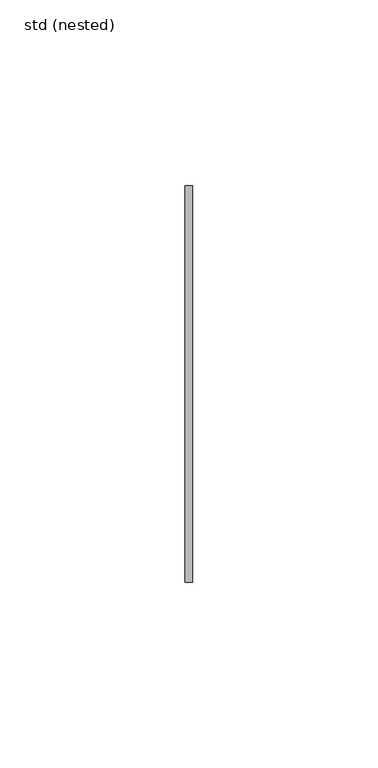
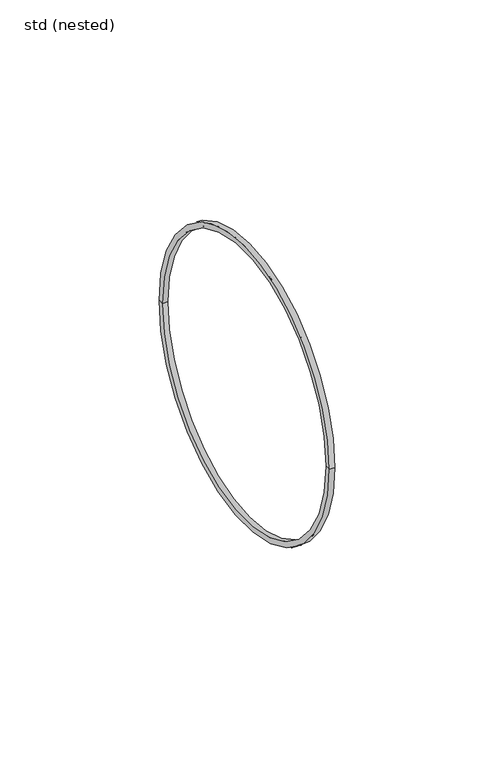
"""IFC4 building model written with IfcOpenShell, lengths in millimetres: pipe fitting geometry, ZZZ_do not use_PIF_ST_UN_GM-X seal non transitional_ACO : std (nested)."""

from ifc_helpers import new_model, si_unit, frame, origin, place, context, project, spatial, polyline, circle_curve, source, transform, mapped, element, save
from ifc_brep_helpers import plane_surface, cylinder_surface, revolved_surface, advanced_brep


def std_nested_473bf3f7(model_context):
    return source(origin(), model_context, "Body", "AdvancedBrep", [
        advanced_brep(
        [(0.0, -53.5, 0.0), (0.0, 53.5, 0.0), (2.0, 53.5, 0.0), (2.0, -53.5, 0.0), (0.0, -51.5, 0.0), (0.0, 51.5, 0.0), (2.0, -51.5, 0.0), (2.0, 51.5, 0.0)],
        [
            (0, 1, circle_curve(frame((0.0, 0.0, 0.0), z_axis=(1.0, 0.0, 0.0), x_axis=(0.0, 1.0, 0.0)), 53.5)),
            (1, 2),
            (2, 3, circle_curve(frame((2.0, 0.0, 0.0), z_axis=(-1.0, 0.0, 0.0), x_axis=(0.0, 1.0, 0.0)), 53.5)),
            (3, 0),
            (1, 0, circle_curve(frame((0.0, 0.0, 0.0), z_axis=(1.0, 0.0, 0.0), x_axis=(0.0, 1.0, 0.0)), 53.5)),
            (3, 2, circle_curve(frame((2.0, 0.0, 0.0), z_axis=(-1.0, 0.0, 0.0), x_axis=(0.0, 1.0, 0.0)), 53.5)),
            (4, 5, circle_curve(frame((0.0, 0.0, 0.0), z_axis=(1.0, 0.0, 0.0), x_axis=(0.0, 1.0, 0.0)), 51.5)),
            (5, 1),
            (0, 4),
            (5, 4, circle_curve(frame((0.0, 0.0, 0.0), z_axis=(1.0, 0.0, 0.0), x_axis=(0.0, 1.0, 0.0)), 51.5)),
            (6, 7, circle_curve(frame((2.0, 0.0, 0.0), z_axis=(1.0, 0.0, 0.0), x_axis=(0.0, 1.0, 0.0)), 51.5)),
            (7, 5),
            (4, 6),
            (7, 6, circle_curve(frame((2.0, 0.0, 0.0), z_axis=(1.0, 0.0, 0.0), x_axis=(0.0, 1.0, 0.0)), 51.5)),
            (2, 7),
            (6, 3),
        ],
        [
            cylinder_surface(frame((-0.8180655, 0.0, 0.0), z_axis=(-1.0, 0.0, 0.0), x_axis=(0.0, 1.0, 0.0)), 53.5),
            plane_surface(frame((0.0, 0.0, 0.0), z_axis=(-1.0, 0.0, 0.0), x_axis=(0.0, 1.0, 0.0))),
            revolved_surface(polyline([(0.0, 51.5, 0.0), (2.0, 51.5, 0.0)]), (-0.8180655, 0.0, 0.0), (-1.0, 0.0, 0.0)),
            plane_surface(frame((2.0, 0.0, 0.0), z_axis=(1.0, 0.0, 0.0), x_axis=(0.0, 1.0, 0.0))),
        ],
        [
            (0, [[1, 2, 3, 4]]),
            (0, [[5, -4, 6, -2]]),
            (1, [[7, 8, -1, 9]]),
            (1, [[10, -9, -5, -8]]),
            (2, [[11, 12, -7, 13]]),
            (2, [[14, -13, -10, -12]]),
            (3, [[-3, 15, -11, 16]]),
            (3, [[-6, -16, -14, -15]]),
        ],
    ),
    ])


if __name__ == "__main__":
    model = new_model("IFC4")
    model_context = context("Model", 3, world=origin())
    ifc_project = project(units=[si_unit("LENGTHUNIT", "METRE", prefix="MILLI")], contexts=[model_context])
    site = spatial("IfcSite", under=ifc_project)
    building = spatial("IfcBuilding", under=site)
    placement = place(None, origin())
    std_nested_shape = std_nested_473bf3f7(model_context)
    element("IfcPipeFitting", 1, ObjectType="ZZZ_do not use_PIF_ST_UN_GM-X seal non transitional_ACO : std (nested)", at=placement, inside=building, context=model_context, shape_type="MappedRepresentation", body=[
        mapped(std_nested_shape, transform((0.0, 0.0, 0.0), x_axis=(1.0, 0.0, 0.0), y_axis=(0.0, 1.0, 0.0), z_axis=(0.0, 0.0, 1.0))),
    ])
    save(model, "model.ifc")
